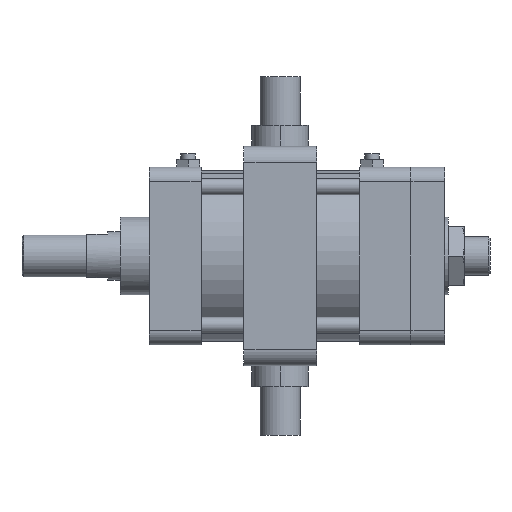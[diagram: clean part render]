
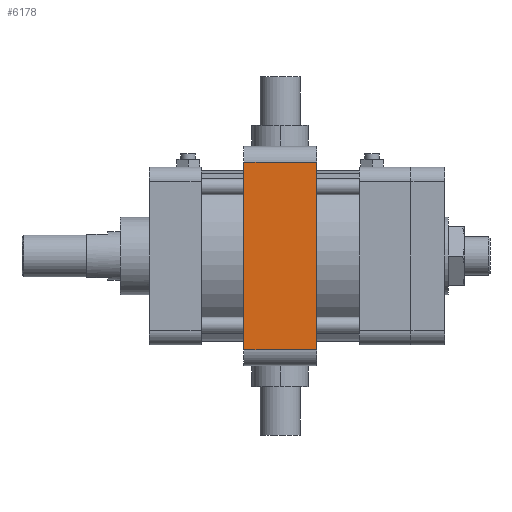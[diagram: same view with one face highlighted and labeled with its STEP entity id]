
A CAD part, front view. The second image highlights one B-rep face of the part: STEP entity #6178.
In plain terms, the highlighted planar face has unit normal (0, -1, 0) as drawn and (0, 0, 1) by its records, which use the part's own axes.
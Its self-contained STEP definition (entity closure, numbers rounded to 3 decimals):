
#331 = EDGE_CURVE ( 'NONE', #6915, #6599, #8986, .T. ) ;
#378 = VECTOR ( 'NONE', #8178, 1000. ) ;
#530 = VERTEX_POINT ( 'NONE', #2874 ) ;
#547 = DIRECTION ( 'NONE',  ( 1., 0., 0. ) ) ;
#769 = VECTOR ( 'NONE', #1749, 1000. ) ;
#1597 = CARTESIAN_POINT ( 'NONE',  ( 0., -45., 68. ) ) ;
#1749 = DIRECTION ( 'NONE',  ( 1., 0., 0. ) ) ;
#1870 = CARTESIAN_POINT ( 'NONE',  ( -58., -22.5, 68. ) ) ;
#2153 = EDGE_CURVE ( 'NONE', #7487, #6599, #9187, .T. ) ;
#2245 = AXIS2_PLACEMENT_3D ( 'NONE', #4213, #8042, #547 ) ;
#2874 = CARTESIAN_POINT ( 'NONE',  ( -58., -45., 68. ) ) ;
#3895 = CARTESIAN_POINT ( 'NONE',  ( 0., 0., 68. ) ) ;
#4185 = CARTESIAN_POINT ( 'NONE',  ( 58., -22.5, 68. ) ) ;
#4213 = CARTESIAN_POINT ( 'NONE',  ( -58., -45., 68. ) ) ;
#4766 = LINE ( 'NONE', #1597, #769 ) ;
#4886 = LINE ( 'NONE', #1870, #8046 ) ;
#5418 = ORIENTED_EDGE ( 'NONE', *, *, #9660, .T. ) ;
#5820 = CARTESIAN_POINT ( 'NONE',  ( 58., -45., 68. ) ) ;
#5835 = PLANE ( 'NONE',  #2245 ) ;
#5898 = CARTESIAN_POINT ( 'NONE',  ( 58., 0., 68. ) ) ;
#6178 = ADVANCED_FACE ( 'NONE', ( #7113 ), #5835, .T. ) ;
#6599 = VERTEX_POINT ( 'NONE', #5898 ) ;
#6603 = CARTESIAN_POINT ( 'NONE',  ( -58., 0., 68. ) ) ;
#6680 = DIRECTION ( 'NONE',  ( 0., -1., 0. ) ) ;
#6849 = VECTOR ( 'NONE', #9510, 1000. ) ;
#6896 = EDGE_LOOP ( 'NONE', ( #7349, #5418, #7830, #6905 ) ) ;
#6905 = ORIENTED_EDGE ( 'NONE', *, *, #331, .T. ) ;
#6915 = VERTEX_POINT ( 'NONE', #5820 ) ;
#7113 = FACE_OUTER_BOUND ( 'NONE', #6896, .T. ) ;
#7349 = ORIENTED_EDGE ( 'NONE', *, *, #2153, .F. ) ;
#7487 = VERTEX_POINT ( 'NONE', #6603 ) ;
#7830 = ORIENTED_EDGE ( 'NONE', *, *, #9521, .T. ) ;
#8042 = DIRECTION ( 'NONE',  ( 0., 0., 1. ) ) ;
#8046 = VECTOR ( 'NONE', #6680, 1000. ) ;
#8178 = DIRECTION ( 'NONE',  ( 0., 1., 0. ) ) ;
#8986 = LINE ( 'NONE', #4185, #378 ) ;
#9187 = LINE ( 'NONE', #3895, #6849 ) ;
#9510 = DIRECTION ( 'NONE',  ( 1., 0., 0. ) ) ;
#9521 = EDGE_CURVE ( 'NONE', #530, #6915, #4766, .T. ) ;
#9660 = EDGE_CURVE ( 'NONE', #7487, #530, #4886, .T. ) ;
